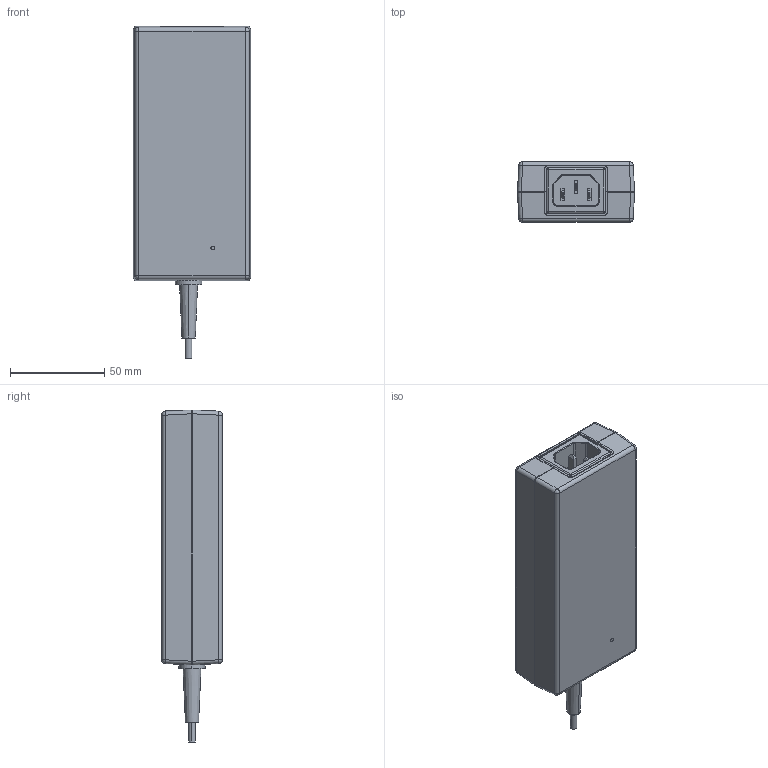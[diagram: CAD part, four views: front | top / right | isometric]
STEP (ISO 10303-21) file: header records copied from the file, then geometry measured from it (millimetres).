
FILE_DESCRIPTION((''),'2;1');
FILE_NAME('MEA-090AXXC_SERIES_ASM','2021-09-02T',('Warud'),(''),'PRO/ENGINEER BY PARAMETRIC TECHNOLOGY CORPORATION, 2010180','PRO/ENGINEER BY PARAMETRIC TECHNOLOGY CORPORATION, 2010180','');
FILE_SCHEMA(('CONFIG_CONTROL_DESIGN','SHAPE_APPEARANCE_LAYERS_GROUPS'));
Length unit declared in the file: millimetre
Products named in the file (15): CHASSIS; BODY; LENS; COVER_ASM; PRT0002_2_1_1; PRT0003_2_1_1; PRT0006_2_1_1; PART_1; ASM0013_ASM; ASM0012_ASM; C14_ASM; 361_C14_ASM; SR; LABEL; MEA-090AXXC_SERIES_ASM
Assembly tree (15 placements, depth 6):
  MEA-090AXXC_SERIES_ASM
    CHASSIS
    COVER_ASM
      BODY
      LENS
    361_C14_ASM
      C14_ASM
        ASM0012_ASM
          ASM0013_ASM
            PRT0002_2_1_1
            PRT0003_2_1_1  x2
            PRT0006_2_1_1
            PART_1
    SR
    LABEL
Bounding box: 62 x 32 x 175.8 mm (x, y, z)
Volume: 63738.3 mm3; surface area: 74338.2 mm2
Topology: 10 solids, 10 shells, 1316 faces, 3470 edges, 2213 vertices
Faces by surface type: plane 861, cylinder 253, cone 72, torus 66, bspline 24, sphere 18, extrusion 14, revolution 8
Entity records: 49961 total; most frequent: CARTESIAN_POINT 10219, ORIENTED_EDGE 6780, DIRECTION 6365, EDGE_CURVE 3390, VECTOR 2577, LINE 2563, PRESENTATION_STYLE_ASSIGNMENT 2478, STYLED_ITEM 2468
